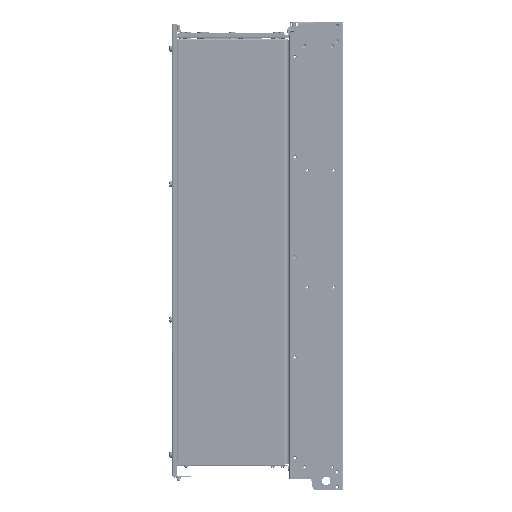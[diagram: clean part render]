
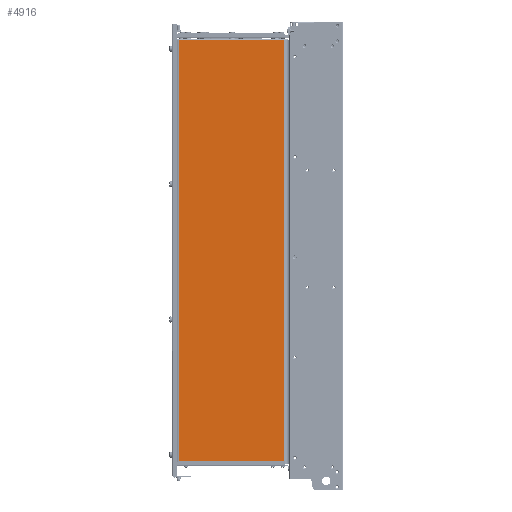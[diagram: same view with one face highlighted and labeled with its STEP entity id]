
A CAD part, left-side view. The second image highlights one B-rep face of the part: STEP entity #4916.
In plain terms, the highlighted planar face has unit normal (-1, 0, 0).
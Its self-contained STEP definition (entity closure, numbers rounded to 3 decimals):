
#4916=ADVANCED_FACE('',(#16895),#16896,.T.);
#16895=FACE_OUTER_BOUND('',#36539,.T.);
#16896=PLANE('',#36540);
#36539=EDGE_LOOP('',(#78156,#78157,#78158,#78159));
#36540=AXIS2_PLACEMENT_3D('',#78160,#78161,#78162);
#78156=ORIENTED_EDGE('',*,*,#119770,.F.);
#78157=ORIENTED_EDGE('',*,*,#119583,.F.);
#78158=ORIENTED_EDGE('',*,*,#119582,.T.);
#78159=ORIENTED_EDGE('',*,*,#119581,.F.);
#78160=CARTESIAN_POINT('',(0.0,318.5,-32.0));
#78161=DIRECTION('',(-1.0,0.0,0.0));
#78162=DIRECTION('',(0.0,0.0,1.0));
#119581=EDGE_CURVE('',#144735,#144342,#144824,.T.);
#119582=EDGE_CURVE('',#144397,#144342,#144825,.T.);
#119583=EDGE_CURVE('',#144397,#144749,#144826,.T.);
#119770=EDGE_CURVE('',#144749,#144735,#145077,.T.);
#144342=VERTEX_POINT('',#182373);
#144397=VERTEX_POINT('',#182451);
#144735=VERTEX_POINT('',#182940);
#144749=VERTEX_POINT('',#182958);
#144824=LINE('',#183093,#183094);
#144825=LINE('',#183095,#183096);
#144826=LINE('',#183097,#183098);
#145077=LINE('',#183457,#183458);
#182373=CARTESIAN_POINT('',(0.0,309.0,-830.2));
#182451=CARTESIAN_POINT('',(0.0,309.0,-33.8));
#182940=CARTESIAN_POINT('',(0.0,112.0,-830.2));
#182958=CARTESIAN_POINT('',(0.0,112.0,-33.8));
#183093=CARTESIAN_POINT('',(0.0,112.0,-830.2));
#183094=VECTOR('',#235136,197.0);
#183095=CARTESIAN_POINT('',(0.0,309.0,-33.8));
#183096=VECTOR('',#235137,796.4);
#183097=CARTESIAN_POINT('',(0.0,309.0,-33.8));
#183098=VECTOR('',#235138,197.0);
#183457=CARTESIAN_POINT('',(0.0,112.0,-33.8));
#183458=VECTOR('',#235481,796.4);
#235136=DIRECTION('',(0.0,1.0,0.0));
#235137=DIRECTION('',(0.0,0.0,-1.0));
#235138=DIRECTION('',(0.0,-1.0,0.0));
#235481=DIRECTION('',(0.0,0.0,-1.0));
